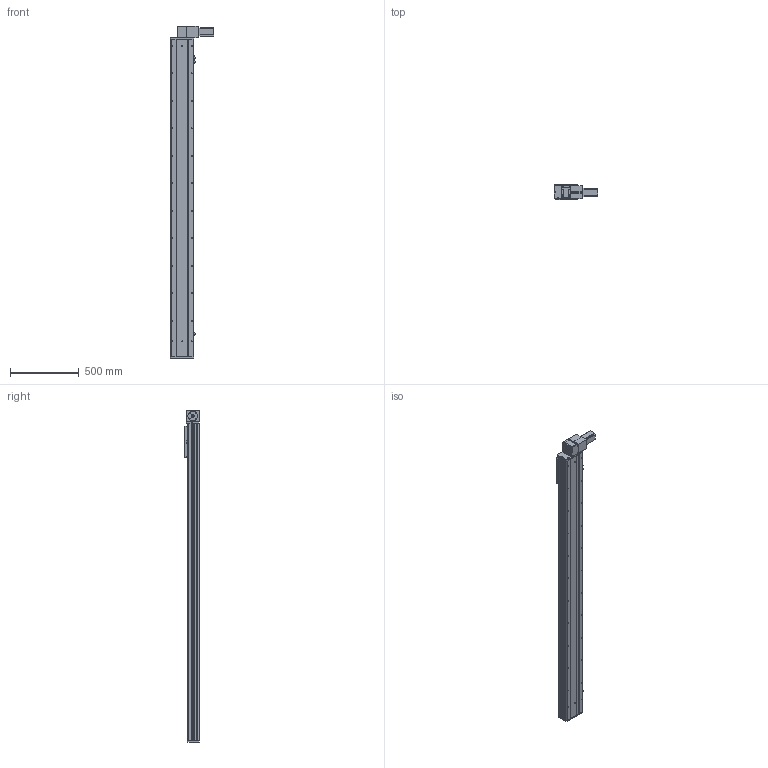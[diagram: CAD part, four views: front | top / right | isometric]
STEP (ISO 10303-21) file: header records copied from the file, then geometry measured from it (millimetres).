
FILE_DESCRIPTION (( 'STEP AP203' ), '1' );
FILE_NAME ('Y170CB-D105-S2000-BD-P400W.STEP', '2020-02-20T08:59:04', ( '微软用户' ), ( '微软中国' ), 'SwSTEP 2.0', 'SolidWorks 2017', '' );
FILE_SCHEMA (( 'CONFIG_CONTROL_DESIGN' ));
Length unit declared in the file: millimetre
Products named in the file (16): san松下电机400不带刹车----; Y100-135俋离換覜ん--; 70CB-掛极-; Y170CB-陔俋离換覜結え---; --70CB --喘謫眊楊擘啣-; Y1埴倛裔; 70CB-耜裔啣-; 70B喘謫眊----; 70C--詩湍揤踡え-; 0B薊粣ん眊-400W--; 70CB--耜裔; Y170CB-D105-S2000-BD-P400W; 70C-雄赽釱-奻-; 0C--雄赽釱俋欶-170; B-源倛裔啣; 70CB-詩湍--
Assembly tree (19 placements, depth 2):
  Y170CB-D105-S2000-BD-P400W
    B-源倛裔啣
    san松下电机400不带刹车----
    70CB-掛极-
    --70CB --喘謫眊楊擘啣-
    70CB-耜裔啣-  x2
    70C--詩湍揤踡え-  x2
    70CB--耜裔
    70C-雄赽釱-奻-
    0C--雄赽釱俋欶-170
    70CB-詩湍--
    Y100-135俋离換覜ん--  x3
    Y170CB-陔俋离換覜結え---
    Y1埴倛裔
    70B喘謫眊----
    0B薊粣ん眊-400W--
Bounding box: 313.5 x 107 x 2416 mm (x, y, z)
Volume: 10764222.6 mm3; surface area: 3749464.1 mm2
Topology: 19 solids, 19 shells, 960 faces, 2546 edges, 1688 vertices
Faces by surface type: cylinder 514, plane 422, cone 24
Entity records: 30179 total; most frequent: CARTESIAN_POINT 5626, DIRECTION 4911, ORIENTED_EDGE 4574, EDGE_CURVE 2287, AXIS2_PLACEMENT_3D 1821, VERTEX_POINT 1518, VECTOR 1269, LINE 1269
